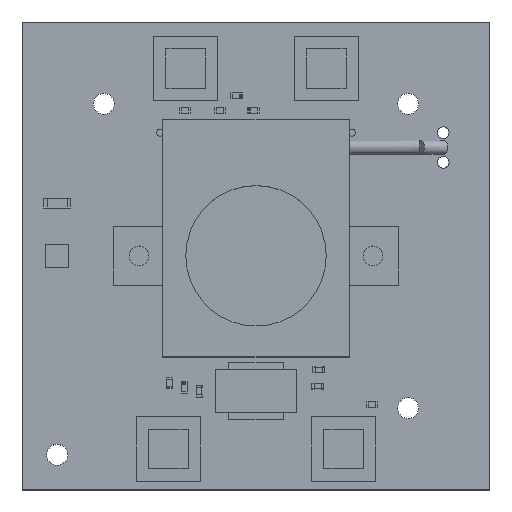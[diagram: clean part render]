
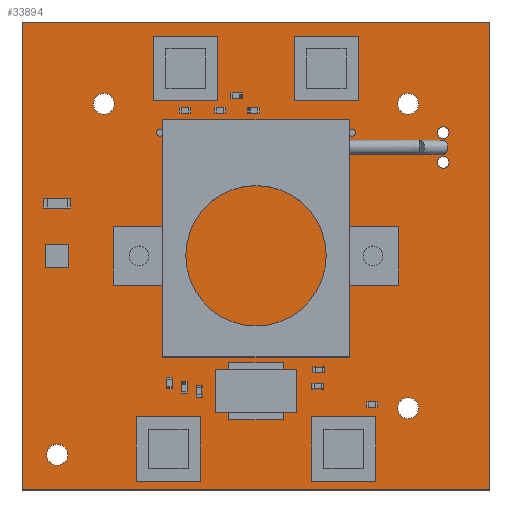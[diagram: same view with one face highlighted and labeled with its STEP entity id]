
A CAD part, top view. The second image highlights one B-rep face of the part: STEP entity #33894.
In plain terms, the highlighted planar face has unit normal (0, 0, 1).
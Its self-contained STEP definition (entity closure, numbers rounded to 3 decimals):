
#33672 = VERTEX_POINT('',#33673);
#33673 = CARTESIAN_POINT('',(20.,-20.,1.471));
#33679 = EDGE_CURVE('',#33672,#33680,#33682,.T.);
#33680 = VERTEX_POINT('',#33681);
#33681 = CARTESIAN_POINT('',(-20.,-20.,1.471));
#33682 = LINE('',#33683,#33684);
#33683 = CARTESIAN_POINT('',(20.,-20.,1.471));
#33684 = VECTOR('',#33685,1.);
#33685 = DIRECTION('',(-1.,0.,0.));
#33712 = VERTEX_POINT('',#33713);
#33713 = CARTESIAN_POINT('',(20.,20.,1.471));
#33719 = EDGE_CURVE('',#33712,#33672,#33720,.T.);
#33720 = LINE('',#33721,#33722);
#33721 = CARTESIAN_POINT('',(20.,20.,1.471));
#33722 = VECTOR('',#33723,1.);
#33723 = DIRECTION('',(0.,-1.,0.));
#33741 = EDGE_CURVE('',#33680,#33742,#33744,.T.);
#33742 = VERTEX_POINT('',#33743);
#33743 = CARTESIAN_POINT('',(-20.,20.,1.471));
#33744 = LINE('',#33745,#33746);
#33745 = CARTESIAN_POINT('',(-20.,-20.,1.471));
#33746 = VECTOR('',#33747,1.);
#33747 = DIRECTION('',(0.,1.,0.));
#33894 = ADVANCED_FACE('',(#33895,#33906,#33917,#33928,#33939,#33950,
    #33961,#33972,#33983,#33994,#34005),#34016,.T.);
#33895 = FACE_BOUND('',#33896,.T.);
#33896 = EDGE_LOOP('',(#33897,#33898,#33899,#33905));
#33897 = ORIENTED_EDGE('',*,*,#33679,.F.);
#33898 = ORIENTED_EDGE('',*,*,#33719,.F.);
#33899 = ORIENTED_EDGE('',*,*,#33900,.F.);
#33900 = EDGE_CURVE('',#33742,#33712,#33901,.T.);
#33901 = LINE('',#33902,#33903);
#33902 = CARTESIAN_POINT('',(-20.,20.,1.471));
#33903 = VECTOR('',#33904,1.);
#33904 = DIRECTION('',(1.,0.,0.));
#33905 = ORIENTED_EDGE('',*,*,#33741,.F.);
#33906 = FACE_BOUND('',#33907,.T.);
#33907 = EDGE_LOOP('',(#33908));
#33908 = ORIENTED_EDGE('',*,*,#33909,.T.);
#33909 = EDGE_CURVE('',#33910,#33910,#33912,.T.);
#33910 = VERTEX_POINT('',#33911);
#33911 = CARTESIAN_POINT('',(-17.,-17.9,1.471));
#33912 = CIRCLE('',#33913,0.9);
#33913 = AXIS2_PLACEMENT_3D('',#33914,#33915,#33916);
#33914 = CARTESIAN_POINT('',(-17.,-17.,1.471));
#33915 = DIRECTION('',(-0.,0.,-1.));
#33916 = DIRECTION('',(-0.,-1.,0.));
#33917 = FACE_BOUND('',#33918,.T.);
#33918 = EDGE_LOOP('',(#33919));
#33919 = ORIENTED_EDGE('',*,*,#33920,.T.);
#33920 = EDGE_CURVE('',#33921,#33921,#33923,.T.);
#33921 = VERTEX_POINT('',#33922);
#33922 = CARTESIAN_POINT('',(13.,-13.9,1.471));
#33923 = CIRCLE('',#33924,0.9);
#33924 = AXIS2_PLACEMENT_3D('',#33925,#33926,#33927);
#33925 = CARTESIAN_POINT('',(13.,-13.,1.471));
#33926 = DIRECTION('',(-0.,0.,-1.));
#33927 = DIRECTION('',(-0.,-1.,0.));
#33928 = FACE_BOUND('',#33929,.T.);
#33929 = EDGE_LOOP('',(#33930));
#33930 = ORIENTED_EDGE('',*,*,#33931,.T.);
#33931 = EDGE_CURVE('',#33932,#33932,#33934,.T.);
#33932 = VERTEX_POINT('',#33933);
#33933 = CARTESIAN_POINT('',(-10.,-0.9,1.471));
#33934 = CIRCLE('',#33935,0.9);
#33935 = AXIS2_PLACEMENT_3D('',#33936,#33937,#33938);
#33936 = CARTESIAN_POINT('',(-10.,0.,1.471));
#33937 = DIRECTION('',(-0.,0.,-1.));
#33938 = DIRECTION('',(-0.,-1.,0.));
#33939 = FACE_BOUND('',#33940,.T.);
#33940 = EDGE_LOOP('',(#33941));
#33941 = ORIENTED_EDGE('',*,*,#33942,.T.);
#33942 = EDGE_CURVE('',#33943,#33943,#33945,.T.);
#33943 = VERTEX_POINT('',#33944);
#33944 = CARTESIAN_POINT('',(-13.,12.1,1.471));
#33945 = CIRCLE('',#33946,0.9);
#33946 = AXIS2_PLACEMENT_3D('',#33947,#33948,#33949);
#33947 = CARTESIAN_POINT('',(-13.,13.,1.471));
#33948 = DIRECTION('',(-0.,0.,-1.));
#33949 = DIRECTION('',(-0.,-1.,0.));
#33950 = FACE_BOUND('',#33951,.T.);
#33951 = EDGE_LOOP('',(#33952));
#33952 = ORIENTED_EDGE('',*,*,#33953,.T.);
#33953 = EDGE_CURVE('',#33954,#33954,#33956,.T.);
#33954 = VERTEX_POINT('',#33955);
#33955 = CARTESIAN_POINT('',(-8.2,10.25,1.471));
#33956 = CIRCLE('',#33957,0.3);
#33957 = AXIS2_PLACEMENT_3D('',#33958,#33959,#33960);
#33958 = CARTESIAN_POINT('',(-8.2,10.55,1.471));
#33959 = DIRECTION('',(-0.,0.,-1.));
#33960 = DIRECTION('',(-0.,-1.,0.));
#33961 = FACE_BOUND('',#33962,.T.);
#33962 = EDGE_LOOP('',(#33963));
#33963 = ORIENTED_EDGE('',*,*,#33964,.T.);
#33964 = EDGE_CURVE('',#33965,#33965,#33967,.T.);
#33965 = VERTEX_POINT('',#33966);
#33966 = CARTESIAN_POINT('',(10.,-0.9,1.471));
#33967 = CIRCLE('',#33968,0.9);
#33968 = AXIS2_PLACEMENT_3D('',#33969,#33970,#33971);
#33969 = CARTESIAN_POINT('',(10.,0.,1.471));
#33970 = DIRECTION('',(-0.,0.,-1.));
#33971 = DIRECTION('',(-0.,-1.,0.));
#33972 = FACE_BOUND('',#33973,.T.);
#33973 = EDGE_LOOP('',(#33974));
#33974 = ORIENTED_EDGE('',*,*,#33975,.T.);
#33975 = EDGE_CURVE('',#33976,#33976,#33978,.T.);
#33976 = VERTEX_POINT('',#33977);
#33977 = CARTESIAN_POINT('',(16.,7.5,1.471));
#33978 = CIRCLE('',#33979,0.5);
#33979 = AXIS2_PLACEMENT_3D('',#33980,#33981,#33982);
#33980 = CARTESIAN_POINT('',(16.,8.,1.471));
#33981 = DIRECTION('',(-0.,0.,-1.));
#33982 = DIRECTION('',(-0.,-1.,0.));
#33983 = FACE_BOUND('',#33984,.T.);
#33984 = EDGE_LOOP('',(#33985));
#33985 = ORIENTED_EDGE('',*,*,#33986,.T.);
#33986 = EDGE_CURVE('',#33987,#33987,#33989,.T.);
#33987 = VERTEX_POINT('',#33988);
#33988 = CARTESIAN_POINT('',(8.2,10.25,1.471));
#33989 = CIRCLE('',#33990,0.3);
#33990 = AXIS2_PLACEMENT_3D('',#33991,#33992,#33993);
#33991 = CARTESIAN_POINT('',(8.2,10.55,1.471));
#33992 = DIRECTION('',(-0.,0.,-1.));
#33993 = DIRECTION('',(-0.,-1.,0.));
#33994 = FACE_BOUND('',#33995,.T.);
#33995 = EDGE_LOOP('',(#33996));
#33996 = ORIENTED_EDGE('',*,*,#33997,.T.);
#33997 = EDGE_CURVE('',#33998,#33998,#34000,.T.);
#33998 = VERTEX_POINT('',#33999);
#33999 = CARTESIAN_POINT('',(16.,10.04,1.471));
#34000 = CIRCLE('',#34001,0.5);
#34001 = AXIS2_PLACEMENT_3D('',#34002,#34003,#34004);
#34002 = CARTESIAN_POINT('',(16.,10.54,1.471));
#34003 = DIRECTION('',(-0.,0.,-1.));
#34004 = DIRECTION('',(-0.,-1.,0.));
#34005 = FACE_BOUND('',#34006,.T.);
#34006 = EDGE_LOOP('',(#34007));
#34007 = ORIENTED_EDGE('',*,*,#34008,.T.);
#34008 = EDGE_CURVE('',#34009,#34009,#34011,.T.);
#34009 = VERTEX_POINT('',#34010);
#34010 = CARTESIAN_POINT('',(13.,12.1,1.471));
#34011 = CIRCLE('',#34012,0.9);
#34012 = AXIS2_PLACEMENT_3D('',#34013,#34014,#34015);
#34013 = CARTESIAN_POINT('',(13.,13.,1.471));
#34014 = DIRECTION('',(-0.,0.,-1.));
#34015 = DIRECTION('',(-0.,-1.,0.));
#34016 = PLANE('',#34017);
#34017 = AXIS2_PLACEMENT_3D('',#34018,#34019,#34020);
#34018 = CARTESIAN_POINT('',(0.,0.,1.471));
#34019 = DIRECTION('',(0.,0.,1.));
#34020 = DIRECTION('',(1.,0.,-0.));
